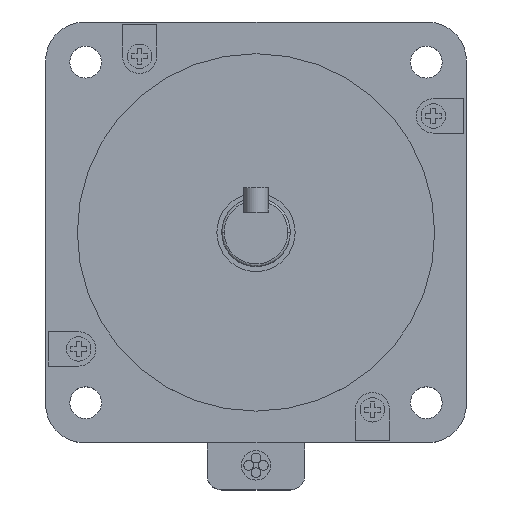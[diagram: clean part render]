
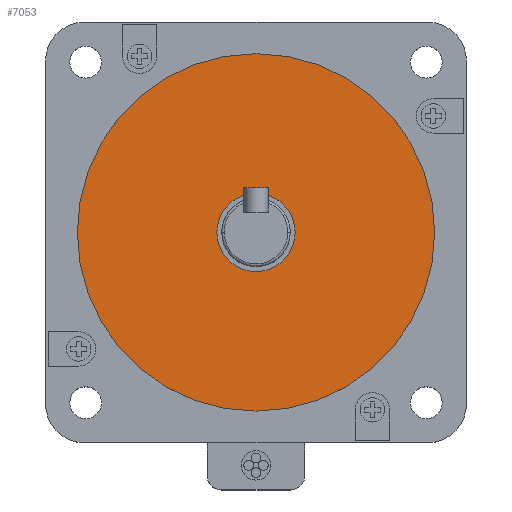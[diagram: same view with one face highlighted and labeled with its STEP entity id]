
A CAD part, top view. The second image highlights one B-rep face of the part: STEP entity #7053.
In plain terms, the highlighted planar face has unit normal (0, 0, 1).
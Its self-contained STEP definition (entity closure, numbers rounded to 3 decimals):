
#187 = DIRECTION ( 'NONE',  ( 0., 0., -1. ) ) ;
#521 = DIRECTION ( 'NONE',  ( -1., 0., 0. ) ) ;
#578 = CARTESIAN_POINT ( 'NONE',  ( 0., 0., 2. ) ) ;
#727 = DIRECTION ( 'NONE',  ( -1., 0., 0. ) ) ;
#1066 = DIRECTION ( 'NONE',  ( 0., 0., -1. ) ) ;
#1154 = ORIENTED_EDGE ( 'NONE', *, *, #2752, .T. ) ;
#1187 = VERTEX_POINT ( 'NONE', #2380 ) ;
#1209 = CIRCLE ( 'NONE', #4719, 36.513 ) ;
#1539 = EDGE_CURVE ( 'NONE', #3915, #5889, #4118, .T. ) ;
#1600 = CIRCLE ( 'NONE', #2958, 8. ) ;
#1674 = DIRECTION ( 'NONE',  ( 0., 0., 1. ) ) ;
#1931 = ORIENTED_EDGE ( 'NONE', *, *, #2288, .F. ) ;
#1984 = CIRCLE ( 'NONE', #6014, 36.513 ) ;
#2191 = ORIENTED_EDGE ( 'NONE', *, *, #1539, .T. ) ;
#2202 = EDGE_LOOP ( 'NONE', ( #3939, #1931 ) ) ;
#2204 = AXIS2_PLACEMENT_3D ( 'NONE', #4446, #1674, #5570 ) ;
#2266 = CARTESIAN_POINT ( 'NONE',  ( 0., 0., 2. ) ) ;
#2288 = EDGE_CURVE ( 'NONE', #1187, #3140, #1209, .T. ) ;
#2332 = EDGE_CURVE ( 'NONE', #3140, #1187, #1984, .T. ) ;
#2380 = CARTESIAN_POINT ( 'NONE',  ( 36.513, 0., 2. ) ) ;
#2413 = CARTESIAN_POINT ( 'NONE',  ( 8., 0., 2. ) ) ;
#2631 = FACE_BOUND ( 'NONE', #5712, .T. ) ;
#2752 = EDGE_CURVE ( 'NONE', #5889, #3915, #1600, .T. ) ;
#2776 = PLANE ( 'NONE',  #2204 ) ;
#2859 = CARTESIAN_POINT ( 'NONE',  ( -8., 0., 2. ) ) ;
#2958 = AXIS2_PLACEMENT_3D ( 'NONE', #4682, #187, #727 ) ;
#3140 = VERTEX_POINT ( 'NONE', #5596 ) ;
#3267 = CARTESIAN_POINT ( 'NONE',  ( 0., 0., 2. ) ) ;
#3371 = DIRECTION ( 'NONE',  ( 0., 0., -1. ) ) ;
#3600 = FACE_OUTER_BOUND ( 'NONE', #2202, .T. ) ;
#3915 = VERTEX_POINT ( 'NONE', #2413 ) ;
#3939 = ORIENTED_EDGE ( 'NONE', *, *, #2332, .F. ) ;
#3943 = DIRECTION ( 'NONE',  ( -1., 0., 0. ) ) ;
#4118 = CIRCLE ( 'NONE', #5374, 8. ) ;
#4446 = CARTESIAN_POINT ( 'NONE',  ( 0., 0., 2. ) ) ;
#4682 = CARTESIAN_POINT ( 'NONE',  ( 0., 0., 2. ) ) ;
#4719 = AXIS2_PLACEMENT_3D ( 'NONE', #3267, #7142, #521 ) ;
#4958 = DIRECTION ( 'NONE',  ( -1., 0., 0. ) ) ;
#5374 = AXIS2_PLACEMENT_3D ( 'NONE', #578, #1066, #4958 ) ;
#5570 = DIRECTION ( 'NONE',  ( 1., 0., 0. ) ) ;
#5596 = CARTESIAN_POINT ( 'NONE',  ( -36.513, 0., 2. ) ) ;
#5712 = EDGE_LOOP ( 'NONE', ( #1154, #2191 ) ) ;
#5889 = VERTEX_POINT ( 'NONE', #2859 ) ;
#6014 = AXIS2_PLACEMENT_3D ( 'NONE', #2266, #3371, #3943 ) ;
#7053 = ADVANCED_FACE ( 'NONE', ( #2631, #3600 ), #2776, .T. ) ;
#7142 = DIRECTION ( 'NONE',  ( 0., 0., -1. ) ) ;
